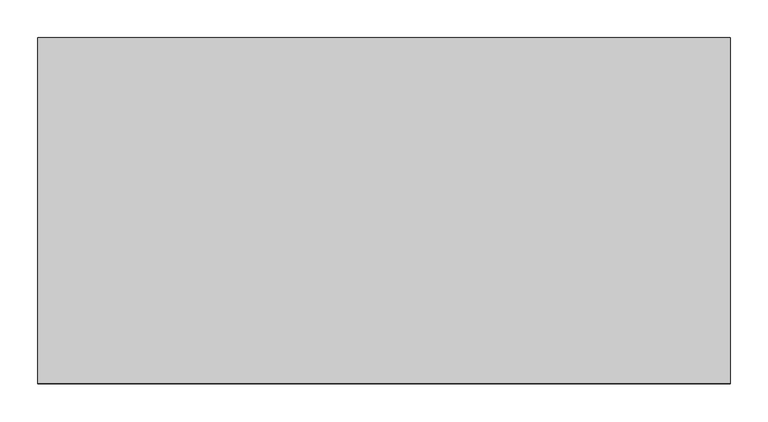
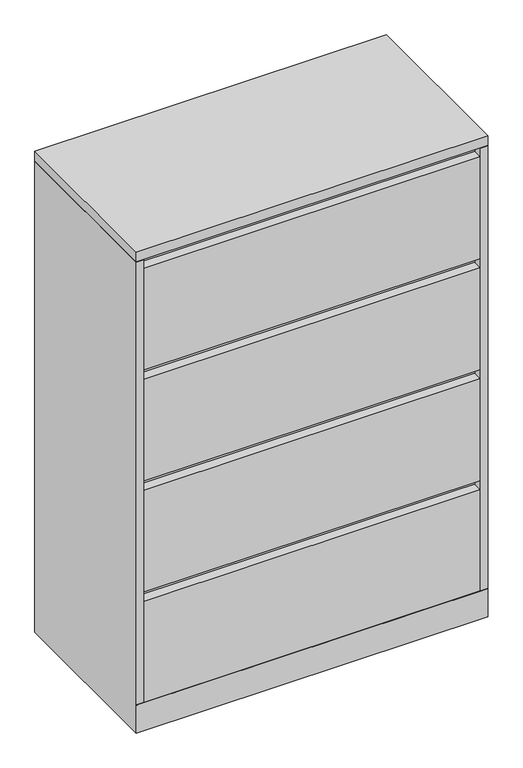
"""IFC4 building model written with IfcOpenShell, lengths in millimetres: furniture geometry, Steelcase - Universal Storage - Lateral File - 3 and 4 High - Flush Steel : 4 Drawers - 18D x 36W."""

from ifc_helpers import new_model, si_unit, frame, origin, place, context, project, spatial, polyline, outline, extrude, faceted_brep, source, transform, mapped, element, save


def furniture_3bca6f0e(model_context):
    return source(origin(), model_context, "Body", "SolidModel", [
        extrude(outline(polyline([(914.4, 457.2), (914.4, 0.0), (0.0, 0.0), (0.0, 457.2), (914.4, 457.2)])), frame((0.0, 0.0, 1295.4), z_axis=(0.0, 0.0, 1.0), x_axis=(1.0, 0.0, 0.0)), (0.0, 0.0, 1.0), 25.4),
        faceted_brep([(914.4, 0.0, 0.0), (914.4, 457.2, 0.0), (914.4, 457.2, 1293.8759651), (914.4, 0.0, 1293.8759651), (914.4, 0.0, 77.7239985), (914.4, 1.524, 77.7239985), (914.4, 1.524, 76.2), (914.4, 0.0, 76.2), (0.0, 0.0, 0.0), (0.0, 0.0, 76.2), (0.0, 1.524, 76.2), (0.0, 1.524, 77.7239985), (0.0, 0.0, 77.7239985), (0.0, 0.0, 1293.8759651), (0.0, 457.2, 1293.8759651), (0.0, 457.2, 0.0), (19.304, 0.0, 1293.8759651), (19.304, 25.4000121, 1293.8759651), (895.096, 25.4000121, 1293.8759651), (895.096, 0.0, 1293.8759651), (19.304, 25.4000121, 101.600003), (895.096, 25.4000121, 101.600003), (19.304, 1.524, 101.600003), (895.096, 1.524, 101.600003), (895.096, 1.524, 77.7239985), (19.304, 1.524, 77.7239985), (19.304, 0.0, 77.7239985), (895.096, 0.0, 77.7239985)], [[[0, 1, 2, 3, 4, 5, 6, 7]], [[8, 9, 10, 11, 12, 13, 14, 15]], [[1, 0, 8, 15]], [[2, 1, 15, 14]], [[3, 2, 14, 13, 16, 17, 18, 19]], [[17, 20, 21, 18]], [[20, 22, 23, 21]], [[10, 6, 5, 24, 23, 22, 25, 11]], [[7, 6, 10, 9]], [[0, 7, 9, 8]], [[17, 16, 26, 25, 22, 20]], [[26, 16, 13, 12]], [[25, 26, 12, 11]], [[24, 27, 19, 18, 21, 23]], [[27, 24, 5, 4]], [[19, 27, 4, 3]]]),
        extrude(outline(polyline([(889.0000242, 431.7999992), (889.0000242, 25.4000121), (25.4000008, 25.4000121), (25.4000008, 431.7999992), (889.0000242, 431.7999992)])), frame((0.0, 0.0, 1293.8759651), z_axis=(0.0, 0.0, 1.0), x_axis=(1.0, 0.0, 0.0)), (0.0, 0.0, 1.0), 1.5240349),
        extrude(outline(polyline([(893.5719835, 0.0), (20.8280006, 0.0), (20.8280006, 25.4000121), (893.5719835, 25.4000121), (893.5719835, 0.0)])), frame((0.0, 0.0, 990.6), z_axis=(0.0, 0.0, 1.0), x_axis=(1.0, 0.0, 0.0)), (0.0, 0.0, 1.0), 279.4),
        extrude(outline(polyline([(893.5719835, 0.0), (20.8280006, 0.0), (20.8280006, 25.4000121), (893.5719835, 25.4000121), (893.5719835, 0.0)])), frame((0.0, 0.0, 685.8), z_axis=(0.0, 0.0, 1.0), x_axis=(1.0, 0.0, 0.0)), (0.0, 0.0, 1.0), 279.4),
        extrude(outline(polyline([(893.5719835, 0.0), (20.8280006, 0.0), (20.8280006, 25.4000121), (893.5719835, 25.4000121), (893.5719835, 0.0)])), frame((0.0, 0.0, 381.0), z_axis=(0.0, 0.0, 1.0), x_axis=(1.0, 0.0, 0.0)), (0.0, 0.0, 1.0), 279.4),
        extrude(outline(polyline([(893.5719835, 0.0), (20.8280006, 0.0), (20.8280006, 25.4000121), (893.5719835, 25.4000121), (893.5719835, 0.0)])), frame((0.0, 0.0, 77.7239985), z_axis=(0.0, 0.0, 1.0), x_axis=(1.0, 0.0, 0.0)), (0.0, 0.0, 1.0), 277.8759893),
    ])


if __name__ == "__main__":
    model = new_model("IFC4")
    model_context = context("Model", 3, world=origin())
    ifc_project = project(units=[si_unit("LENGTHUNIT", "METRE", prefix="MILLI")], contexts=[model_context])
    site = spatial("IfcSite", under=ifc_project)
    building = spatial("IfcBuilding", under=site)
    placement = place(None, origin())
    furniture_shape = furniture_3bca6f0e(model_context)
    element("IfcFurniture", 1, ObjectType="Steelcase - Universal Storage - Lateral File - 3 and 4 High - Flush Steel : 4 Drawers - 18D x 36W", at=placement, inside=building, context=model_context, shape_type="MappedRepresentation", body=[
        mapped(furniture_shape, transform((0.0, 0.0, 0.0), x_axis=(1.0, 0.0, 0.0), y_axis=(0.0, 1.0, 0.0), z_axis=(0.0, 0.0, 1.0))),
    ])
    save(model, "model.ifc")
